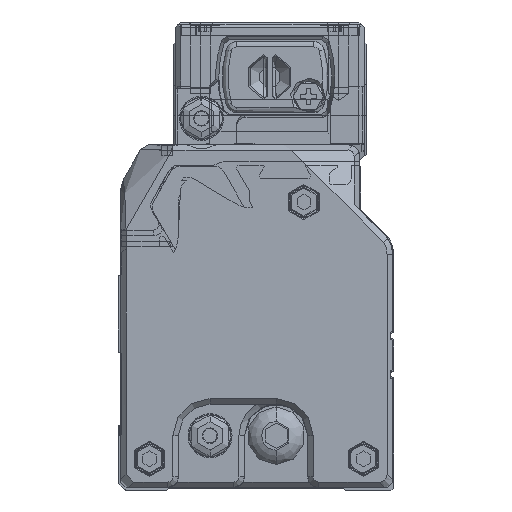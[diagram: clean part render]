
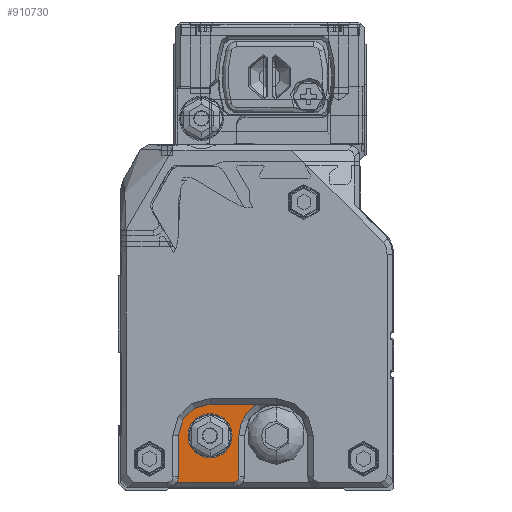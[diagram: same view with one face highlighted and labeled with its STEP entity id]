
A CAD part, left-side view. The second image highlights one B-rep face of the part: STEP entity #910730.
In plain terms, the highlighted planar face has unit normal (-1, 0, 0) as drawn and (1, 0, 0) by its records, which use the part's own axes.
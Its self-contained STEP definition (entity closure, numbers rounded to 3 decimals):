
#909180=CARTESIAN_POINT('',(5264.177,2.462,
3.148));
#909190=DIRECTION('',(-1.,0.,0.));
#909200=DIRECTION('',(0.,1.,0.));
#909210=AXIS2_PLACEMENT_3D('',#909180,#909190,#909200);
#909220=CIRCLE('',#909210,5.75);
#909230=CARTESIAN_POINT('',(5264.177,8.212,
3.148));
#909240=VERTEX_POINT('',#909230);
#909250=CARTESIAN_POINT('',(5264.177,2.462,
-2.602));
#909260=VERTEX_POINT('',#909250);
#909270=EDGE_CURVE('',#909240,#909260,#909220,.T.);
#909680=CARTESIAN_POINT('',(5264.177,8.212,
3.148));
#909690=DIRECTION('',(0.,0.,1.));
#909700=VECTOR('',#909690,1.);
#909710=LINE('',#909680,#909700);
#909720=CARTESIAN_POINT('',(5264.177,8.212,
10.598));
#909730=VERTEX_POINT('',#909720);
#909740=EDGE_CURVE('',#909240,#909730,#909710,.T.);
#910000=CARTESIAN_POINT('',(5264.177,-5.938,
-12.8));
#910010=DIRECTION('',(-1.,0.,0.));
#910020=DIRECTION('',(0.,0.,-1.));
#910030=AXIS2_PLACEMENT_3D('',#910000,#910010,#910020);
#910040=PLANE('',#910030);
#910050=CARTESIAN_POINT('',(5264.177,4.212,
11.598));
#910060=DIRECTION('',(0.,-1.,0.));
#910070=VECTOR('',#910060,1.);
#910080=LINE('',#910050,#910070);
#910090=CARTESIAN_POINT('',(5264.177,8.48,
11.598));
#910100=VERTEX_POINT('',#910090);
#910110=CARTESIAN_POINT('',(5264.177,-1.788,
11.598));
#910120=VERTEX_POINT('',#910110);
#910130=EDGE_CURVE('',#910100,#910120,#910080,.T.);
#910140=ORIENTED_EDGE('',*,*,#910130,.T.);
#910150=CARTESIAN_POINT('',(5264.177,10.212,
10.598));
#910160=DIRECTION('',(-1.,0.,0.));
#910170=DIRECTION('',(0.,1.,0.));
#910180=AXIS2_PLACEMENT_3D('',#910150,#910160,#910170);
#910190=CIRCLE('',#910180,2.);
#910200=EDGE_CURVE('',#909730,#910100,#910190,.T.);
#910210=ORIENTED_EDGE('',*,*,#910200,.T.);
#910220=ORIENTED_EDGE('',*,*,#909740,.T.);
#910230=ORIENTED_EDGE('',*,*,#909270,.F.);
#910240=CARTESIAN_POINT('',(5264.177,-5.888,
-2.602));
#910250=DIRECTION('',(0.,1.,0.));
#910260=VECTOR('',#910250,1.);
#910270=LINE('',#910240,#910260);
#910280=CARTESIAN_POINT('',(5264.177,-6.002,
-2.602));
#910290=VERTEX_POINT('',#910280);
#910300=EDGE_CURVE('',#910290,#909260,#910270,.T.);
#910310=ORIENTED_EDGE('',*,*,#910300,.T.);
#910320=CARTESIAN_POINT('',(5264.177,-9.538,
3.148));
#910330=DIRECTION('',(-1.,0.,0.));
#910340=DIRECTION('',(0.,1.,0.));
#910350=AXIS2_PLACEMENT_3D('',#910320,#910330,#910340);
#910360=CIRCLE('',#910350,6.75);
#910370=CARTESIAN_POINT('',(5264.177,-2.788,
3.148));
#910380=VERTEX_POINT('',#910370);
#910390=EDGE_CURVE('',#910380,#910290,#910360,.T.);
#910400=ORIENTED_EDGE('',*,*,#910390,.T.);
#910410=CARTESIAN_POINT('',(5264.177,-2.788,
6.873));
#910420=DIRECTION('',(0.,0.,-1.));
#910430=VECTOR('',#910420,1.);
#910440=LINE('',#910410,#910430);
#910450=CARTESIAN_POINT('',(5264.177,-2.788,
10.598));
#910460=VERTEX_POINT('',#910450);
#910470=EDGE_CURVE('',#910460,#910380,#910440,.T.);
#910480=ORIENTED_EDGE('',*,*,#910470,.T.);
#910490=CARTESIAN_POINT('',(5264.177,-1.788,
10.598));
#910500=DIRECTION('',(-1.,0.,0.));
#910510=DIRECTION('',(0.,1.,0.));
#910520=AXIS2_PLACEMENT_3D('',#910490,#910500,#910510);
#910530=CIRCLE('',#910520,1.);
#910540=EDGE_CURVE('',#910460,#910120,#910530,.T.);
#910550=ORIENTED_EDGE('',*,*,#910540,.F.);
#910560=EDGE_LOOP('',(#910550,#910480,#910400,#910310,#910230,#910220,
#910210,#910140));
#910570=FACE_OUTER_BOUND('',#910560,.T.);
#910580=CARTESIAN_POINT('',(5264.177,2.462,
3.148));
#910590=DIRECTION('',(-1.,0.,0.));
#910600=DIRECTION('',(0.,0.,-1.));
#910610=AXIS2_PLACEMENT_3D('',#910580,#910590,#910600);
#910620=CIRCLE('',#910610,4.);
#910630=CARTESIAN_POINT('',(5264.177,2.462,
7.148));
#910640=VERTEX_POINT('',#910630);
#910650=CARTESIAN_POINT('',(5264.177,2.462,
-0.852));
#910660=VERTEX_POINT('',#910650);
#910670=EDGE_CURVE('',#910640,#910660,#910620,.T.);
#910680=ORIENTED_EDGE('',*,*,#910670,.T.);
#910690=EDGE_CURVE('',#910660,#910640,#910620,.T.);
#910700=ORIENTED_EDGE('',*,*,#910690,.T.);
#910710=EDGE_LOOP('',(#910700,#910680));
#910720=FACE_BOUND('',#910710,.T.);
#910730=ADVANCED_FACE('',(#910570,#910720),#910040,.F.);
